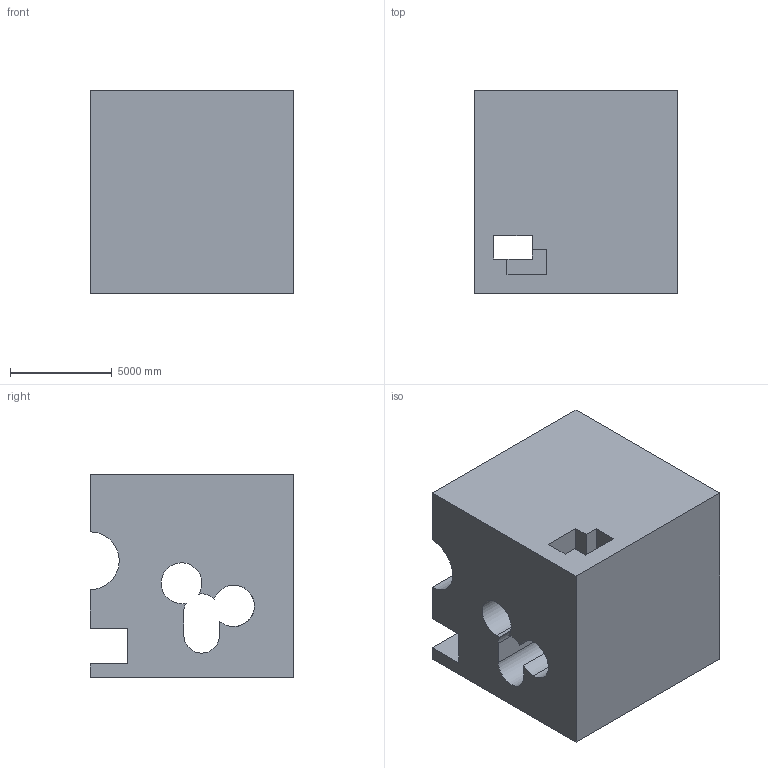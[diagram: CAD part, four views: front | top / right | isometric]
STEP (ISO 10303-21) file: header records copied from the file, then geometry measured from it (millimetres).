
FILE_DESCRIPTION (( 'STEP AP203' ), '1' );
FILE_NAME ('346.STEP', '2022-09-07T13:03:27', ( 'user' ), ( '' ), 'SwSTEP 2.0', 'SolidWorks 2021', '' );
FILE_SCHEMA (( 'CONFIG_CONTROL_DESIGN' ));
Length unit declared in the file: centimetre
Products named in the file (1): 346
Bounding box: 10000 x 10000 x 10000 mm (x, y, z)
Volume: 802158493131.3 mm3; surface area: 843102761.8 mm2
Topology: 1 solids, 1 shells, 39 faces, 114 edges, 76 vertices
Faces by surface type: plane 28, cylinder 11
Entity records: 1383 total; most frequent: CARTESIAN_POINT 230, ORIENTED_EDGE 228, DIRECTION 220, EDGE_CURVE 114, VECTOR 88, LINE 88, VERTEX_POINT 76, AXIS2_PLACEMENT_3D 66
